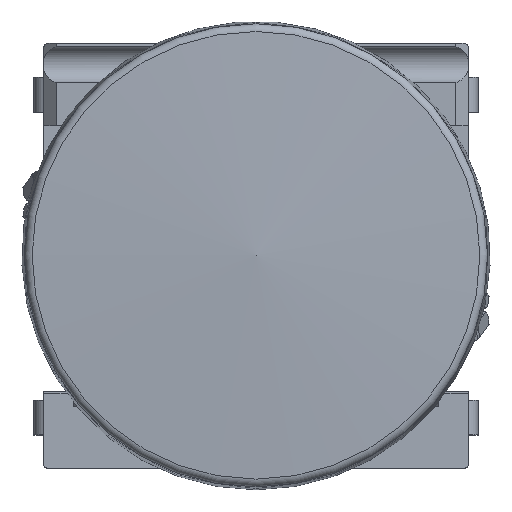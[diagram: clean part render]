
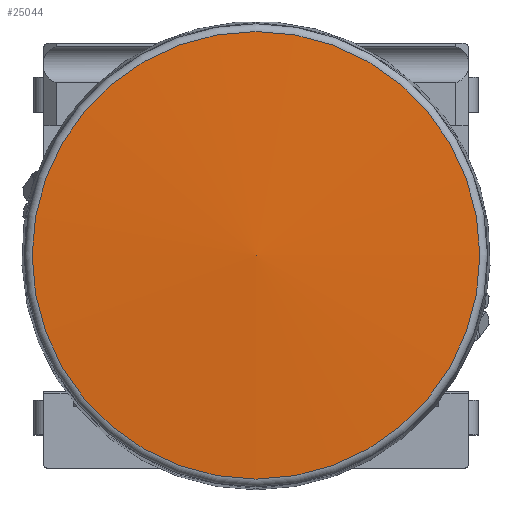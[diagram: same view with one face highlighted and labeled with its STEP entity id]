
A CAD part, top view. The second image highlights one B-rep face of the part: STEP entity #25044.
In plain terms, the highlighted spherical face has radius 60 mm.
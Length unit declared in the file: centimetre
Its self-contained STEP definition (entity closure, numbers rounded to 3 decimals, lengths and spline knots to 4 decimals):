
#12=SPHERICAL_SURFACE($,#26436,6.);
#1383=FACE_OUTER_BOUND($,#2691,.T.);
#2691=EDGE_LOOP($,(#16129));
#8791=CIRCLE($,#26437,0.5271);
#9573=VERTEX_POINT($,#37149);
#12113=EDGE_CURVE($,#9573,#9573,#8791,.T.);
#16129=ORIENTED_EDGE($,*,*,#12113,.T.);
#25044=ADVANCED_FACE($,(#1383),#12,.T.);
#26436=AXIS2_PLACEMENT_3D($,#37148,#28660,#28661);
#26437=AXIS2_PLACEMENT_3D($,#37150,#28662,#28663);
#28660=DIRECTION('center_axis',(0.,0.,
-1.));
#28661=DIRECTION('ref_axis',(1.,0.,0.));
#28662=DIRECTION('center_axis',(0.,0.,
1.));
#28663=DIRECTION('ref_axis',(0.,1.,0.));
#37148=CARTESIAN_POINT('Origin',(0.,0.,
-4.739));
#37149=CARTESIAN_POINT('',(0.,-0.5271,1.2378));
#37150=CARTESIAN_POINT('Origin',(0.,0.,
1.2378));
